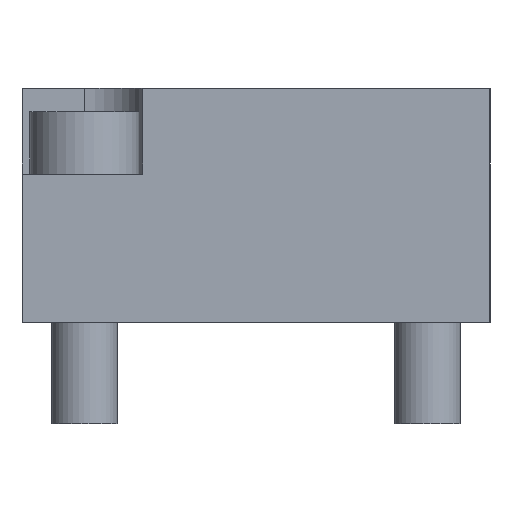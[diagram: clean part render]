
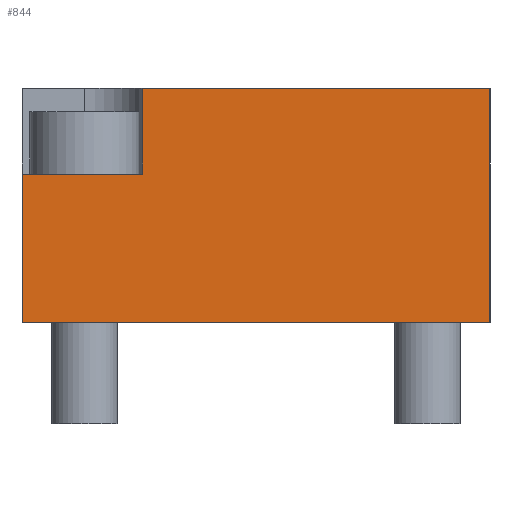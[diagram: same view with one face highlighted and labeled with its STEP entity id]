
A CAD part, left-side view. The second image highlights one B-rep face of the part: STEP entity #844.
In plain terms, the highlighted planar face has unit normal (-1, 0, 0).
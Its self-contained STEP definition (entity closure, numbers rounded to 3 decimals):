
#61=LINE('',#1316,#129);
#70=LINE('',#1335,#138);
#75=LINE('',#1349,#143);
#76=LINE('',#1382,#144);
#77=LINE('',#1383,#145);
#78=LINE('',#1384,#146);
#129=VECTOR('',#1078,5.5);
#138=VECTOR('',#1091,15.);
#143=VECTOR('',#1110,7.75);
#144=VECTOR('',#1155,9.5);
#145=VECTOR('',#1156,30.);
#146=VECTOR('',#1157,22.25);
#184=PLANE('',#930);
#269=FACE_OUTER_BOUND('',#344,.T.);
#344=EDGE_LOOP('',(#714,#715,#716,#717,#718,#719));
#434=VERTEX_POINT('',#1312);
#436=VERTEX_POINT('',#1315);
#443=VERTEX_POINT('',#1332);
#444=VERTEX_POINT('',#1334);
#446=VERTEX_POINT('',#1347);
#456=VERTEX_POINT('',#1381);
#520=EDGE_CURVE('',#436,#434,#61,.T.);
#529=EDGE_CURVE('',#443,#444,#70,.T.);
#537=EDGE_CURVE('',#434,#446,#75,.T.);
#548=EDGE_CURVE('',#446,#456,#76,.T.);
#549=EDGE_CURVE('',#456,#444,#77,.T.);
#550=EDGE_CURVE('',#443,#436,#78,.T.);
#714=ORIENTED_EDGE('',*,*,#537,.T.);
#715=ORIENTED_EDGE('',*,*,#548,.T.);
#716=ORIENTED_EDGE('',*,*,#549,.T.);
#717=ORIENTED_EDGE('',*,*,#529,.F.);
#718=ORIENTED_EDGE('',*,*,#550,.T.);
#719=ORIENTED_EDGE('',*,*,#520,.T.);
#844=ADVANCED_FACE('',(#269),#184,.T.);
#930=AXIS2_PLACEMENT_3D('',#1380,#1153,#1154);
#1078=DIRECTION('',(0.,0.,-1.));
#1091=DIRECTION('',(0.,0.,-1.));
#1110=DIRECTION('',(0.,1.,0.));
#1153=DIRECTION('center_axis',(-1.,0.,0.));
#1154=DIRECTION('ref_axis',(0.,0.,1.));
#1155=DIRECTION('',(0.,0.,-1.));
#1156=DIRECTION('',(0.,-1.,0.));
#1157=DIRECTION('',(0.,1.,0.));
#1312=CARTESIAN_POINT('',(-32.25,7.25,-5.5));
#1315=CARTESIAN_POINT('',(-32.25,7.25,0.));
#1316=CARTESIAN_POINT('',(-32.25,7.25,0.));
#1332=CARTESIAN_POINT('',(-32.25,-15.,0.));
#1334=CARTESIAN_POINT('',(-32.25,-15.,-15.));
#1335=CARTESIAN_POINT('',(-32.25,-15.,0.));
#1347=CARTESIAN_POINT('',(-32.25,15.,-5.5));
#1349=CARTESIAN_POINT('',(-32.25,7.5,-5.5));
#1380=CARTESIAN_POINT('Origin',(-32.25,15.,0.));
#1381=CARTESIAN_POINT('',(-32.25,15.,-15.));
#1382=CARTESIAN_POINT('',(-32.25,15.,0.));
#1383=CARTESIAN_POINT('',(-32.25,-15.,-15.));
#1384=CARTESIAN_POINT('',(-32.25,-15.,0.));
